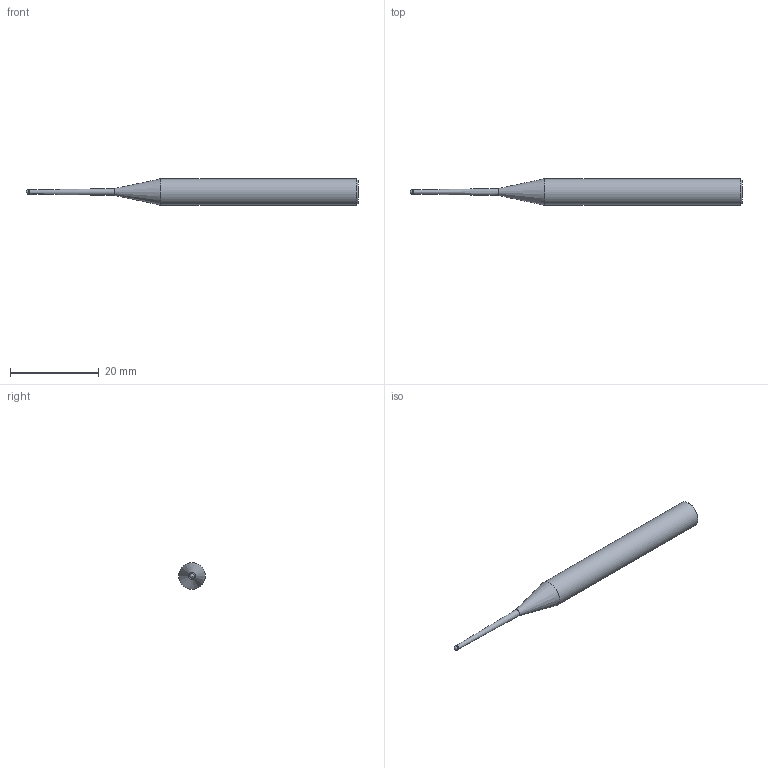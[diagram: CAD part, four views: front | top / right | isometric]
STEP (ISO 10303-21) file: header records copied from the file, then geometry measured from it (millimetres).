
FILE_DESCRIPTION(/* description */ (''),/* implementation_level */ '2;1');
FILE_NAME(/* name */ 'HGXPB2010-20-T0.9 0675.stp',/* time_stamp */ '2026-01-22T08:59:14+08:00',/* author */ (''),/* organization */ (''),/* preprocessor_version */ 'ST-DEVELOPER v16',/* originating_system */ 'SIEMENS PLM Software NX 10.0',/* authorisation */ '');
FILE_SCHEMA (('CONFIG_CONTROL_DESIGN'));
Length unit declared in the file: millimetre
Products named in the file (1): HGXPB2010-20-T0.9 0675_x_t
Bounding box: 75 x 6 x 6 mm (x, y, z)
Volume: 1413.8 mm3; surface area: 1069.3 mm2
Topology: 1 solids, 1 shells, 9 faces, 17 edges, 10 vertices
Faces by surface type: cylinder 3, cone 3, plane 2, sphere 1
Full cylindrical faces by diameter (mm): 0.95 x1, 1 x1, 6 x1
Entity records: 258 total; most frequent: DIRECTION 36, CARTESIAN_POINT 26, AXIS2_PLACEMENT_3D 18, EDGE_LOOP 16, ORIENTED_EDGE 16, FACE_BOUND 14, ADVANCED_FACE 9, VERTEX_POINT 8
